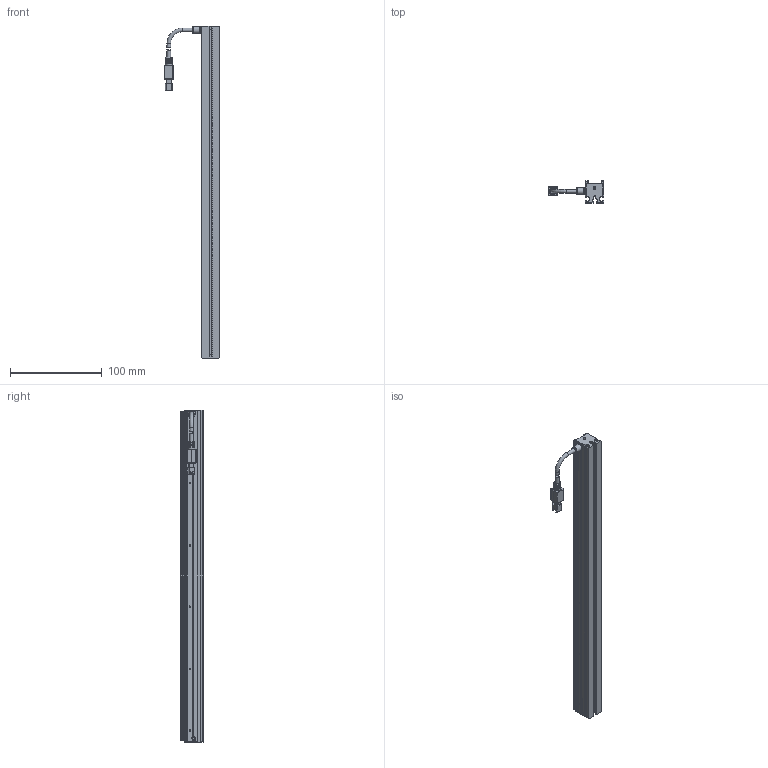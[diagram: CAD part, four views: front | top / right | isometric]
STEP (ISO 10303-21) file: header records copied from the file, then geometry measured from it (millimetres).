
FILE_DESCRIPTION (( 'STEP AP203' ), '1' );
FILE_NAME ('OPT-ILI36220-IR-V1.0尨砩芞.STEP', '2025-01-18T08:25:31', ( '' ), ( '' ), 'SwSTEP 2.0', 'SolidWorks 2016', '' );
FILE_SCHEMA (( 'CONFIG_CONTROL_DESIGN' ));
Length unit declared in the file: millimetre
Products named in the file (1): OPT-ILI36220-IR-V1.0尨砩芞
Bounding box: 60.6 x 24 x 362 mm (x, y, z)
Volume: 128450.3 mm3; surface area: 60796.5 mm2
Topology: 5 solids, 13 shells, 574 faces, 1502 edges, 970 vertices
Faces by surface type: plane 383, cylinder 133, cone 28, bspline 20, torus 10
Full cylindrical faces by diameter (mm): 1.1 x2, 1.4 x2, 1.6 x19, 2 x7, 2.4 x7, 2.5 x2, 3 x2, 3.5 x1, 4.1 x3, 7.5 x2, 8 x1
Entity records: 17573 total; most frequent: CARTESIAN_POINT 4073, ORIENTED_EDGE 2762, DIRECTION 2674, EDGE_CURVE 1381, VECTOR 930, LINE 930, VERTEX_POINT 927, AXIS2_PLACEMENT_3D 872
